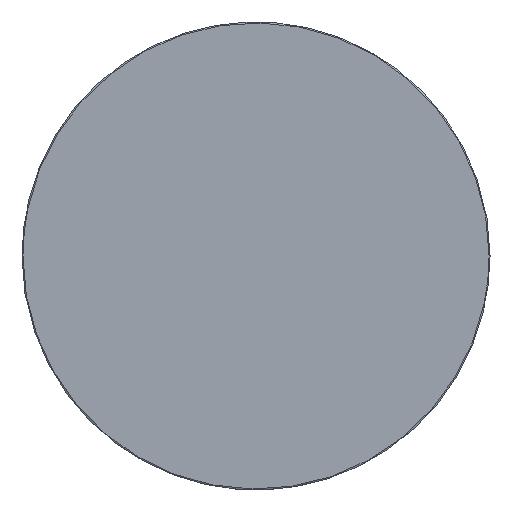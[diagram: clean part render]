
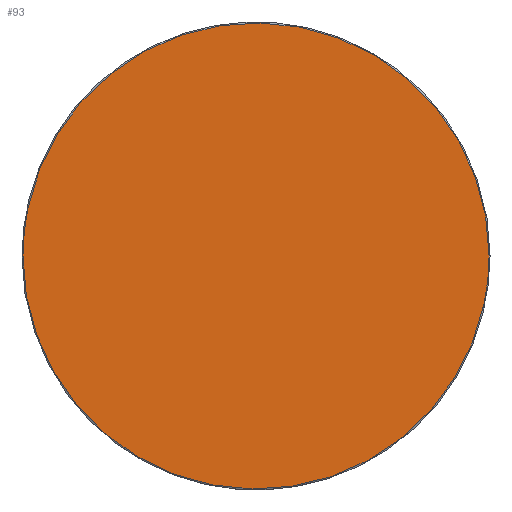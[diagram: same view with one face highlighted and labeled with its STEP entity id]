
A CAD part, top view. The second image highlights one B-rep face of the part: STEP entity #93.
In plain terms, the highlighted planar face has unit normal (0, 0, 1).
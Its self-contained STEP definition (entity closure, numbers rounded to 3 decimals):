
#33=PLANE('',#712);
#93=ADVANCED_FACE('',(#139),#33,.T.);
#139=FACE_OUTER_BOUND('',#185,.T.);
#185=EDGE_LOOP('',(#365,#366));
#365=ORIENTED_EDGE('',*,*,#477,.T.);
#366=ORIENTED_EDGE('',*,*,#484,.T.);
#477=EDGE_CURVE('',#642,#646,#578,.T.);
#484=EDGE_CURVE('',#646,#642,#582,.T.);
#578=B_SPLINE_CURVE_WITH_KNOTS('',3,(#4875,#4876,#4877,#4878,#4879,#4880,
#4881,#4882,#4883,#4884,#4885,#4886,#4887,#4888,#4889,#4890,#4891,#4892,
#4893,#4894),.UNSPECIFIED.,.F.,.F.,(4,1,1,1,1,1,1,1,1,1,1,1,1,1,1,1,1,4),
(0.,51.463,98.12,146.57,195.564,
244.558,293.008,339.665,391.128,442.591,
489.248,537.699,586.692,635.686,684.136,
730.793,756.525,782.256),.UNSPECIFIED.);
#582=B_SPLINE_CURVE_WITH_KNOTS('',3,(#4945,#4946,#4947,#4948,#4949,#4950,
#4951,#4952,#4953,#4954,#4955,#4956,#4957,#4958,#4959,#4960,#4961,#4962,
#4963,#4964,#4965,#4966,#4967,#4968,#4969,#4970,#4971,#4972,#4973,#4974,
#4975,#4976,#4977,#4978),.UNSPECIFIED.,.F.,.F.,(4,1,1,1,1,1,1,1,1,1,1,1,
1,1,1,1,1,1,1,1,1,1,1,1,1,1,1,1,1,1,1,4),(782.256,807.988,
833.719,880.376,904.601,928.827,953.323,
977.82,1002.317,1026.814,1075.265,1098.593,
1121.922,1134.787,1147.653,1160.519,1173.384,
1199.116,1224.847,1248.176,1271.504,1295.729,
1319.955,1344.452,1368.948,1393.445,1417.942,
1466.393,1489.721,1513.05,1538.781,1564.512),
 .UNSPECIFIED.);
#642=VERTEX_POINT('',#4834);
#646=VERTEX_POINT('',#4838);
#712=AXIS2_PLACEMENT_3D('',#4604,#721,$);
#721=DIRECTION('',(0.,0.,1.));
#4604=CARTESIAN_POINT('',(-312.5,-312.5,517.));
#4834=CARTESIAN_POINT('',(249.,0.,517.));
#4838=CARTESIAN_POINT('',(-249.,0.,517.));
#4875=CARTESIAN_POINT('',(249.,0.,517.));
#4876=CARTESIAN_POINT('',(249.002,17.154,517.));
#4877=CARTESIAN_POINT('',(245.607,49.86,517.));
#4878=CARTESIAN_POINT('',(231.089,96.735,517.));
#4879=CARTESIAN_POINT('',(208.319,139.287,517.));
#4880=CARTESIAN_POINT('',(177.21,177.21,517.));
#4881=CARTESIAN_POINT('',(139.288,208.319,517.));
#4882=CARTESIAN_POINT('',(96.735,231.088,517.));
#4883=CARTESIAN_POINT('',(49.86,245.608,517.));
#4884=CARTESIAN_POINT('',(0.,250.78,517.));
#4885=CARTESIAN_POINT('',(-49.86,245.608,517.));
#4886=CARTESIAN_POINT('',(-96.735,231.089,517.));
#4887=CARTESIAN_POINT('',(-139.288,208.319,517.));
#4888=CARTESIAN_POINT('',(-177.21,177.21,517.));
#4889=CARTESIAN_POINT('',(-208.319,139.287,517.));
#4890=CARTESIAN_POINT('',(-231.089,96.735,517.));
#4891=CARTESIAN_POINT('',(-243.058,58.089,517.));
#4892=CARTESIAN_POINT('',(-248.112,25.731,517.));
#4893=CARTESIAN_POINT('',(-249.,8.577,517.));
#4894=CARTESIAN_POINT('',(-249.,0.,517.));
#4945=CARTESIAN_POINT('',(-249.,0.,517.));
#4946=CARTESIAN_POINT('',(-249.,-8.577,517.));
#4947=CARTESIAN_POINT('',(-248.113,-25.732,517.));
#4948=CARTESIAN_POINT('',(-243.058,-58.089,517.));
#4949=CARTESIAN_POINT('',(-233.489,-88.987,517.));
#4950=CARTESIAN_POINT('',(-219.889,-117.667,517.));
#4951=CARTESIAN_POINT('',(-207.374,-138.548,517.));
#4952=CARTESIAN_POINT('',(-192.823,-158.179,517.));
#4953=CARTESIAN_POINT('',(-176.354,-176.354,517.));
#4954=CARTESIAN_POINT('',(-158.179,-192.823,517.));
#4955=CARTESIAN_POINT('',(-132.053,-212.189,517.));
#4956=CARTESIAN_POINT('',(-103.624,-227.403,517.));
#4957=CARTESIAN_POINT('',(-73.779,-238.199,517.));
#4958=CARTESIAN_POINT('',(-54.552,-243.183,517.));
#4959=CARTESIAN_POINT('',(-38.46,-246.124,517.));
#4960=CARTESIAN_POINT('',(-25.697,-247.782,517.));
#4961=CARTESIAN_POINT('',(-12.866,-248.778,517.));
#4962=CARTESIAN_POINT('',(4.289,-249.222,517.));
#4963=CARTESIAN_POINT('',(25.731,-248.113,517.));
#4964=CARTESIAN_POINT('',(50.396,-244.259,517.));
#4965=CARTESIAN_POINT('',(73.78,-238.2,517.));
#4966=CARTESIAN_POINT('',(96.021,-230.151,517.));
#4967=CARTESIAN_POINT('',(117.667,-219.89,517.));
#4968=CARTESIAN_POINT('',(138.547,-207.373,517.));
#4969=CARTESIAN_POINT('',(158.179,-192.823,517.));
#4970=CARTESIAN_POINT('',(176.354,-176.354,517.));
#4971=CARTESIAN_POINT('',(192.823,-158.179,517.));
#4972=CARTESIAN_POINT('',(212.189,-132.053,517.));
#4973=CARTESIAN_POINT('',(227.403,-103.624,517.));
#4974=CARTESIAN_POINT('',(238.199,-73.779,517.));
#4975=CARTESIAN_POINT('',(244.259,-50.396,517.));
#4976=CARTESIAN_POINT('',(248.112,-25.731,517.));
#4977=CARTESIAN_POINT('',(249.,-8.577,517.));
#4978=CARTESIAN_POINT('',(249.,0.,517.));
